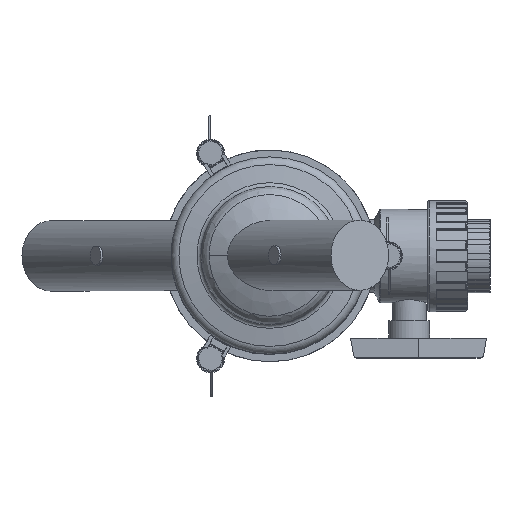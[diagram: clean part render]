
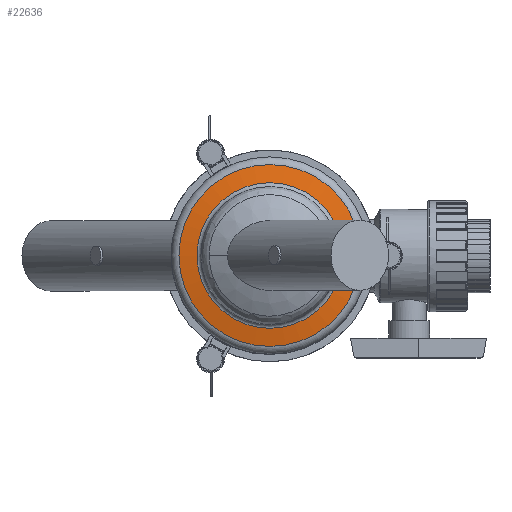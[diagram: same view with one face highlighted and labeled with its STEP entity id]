
A CAD part, top view. The second image highlights one B-rep face of the part: STEP entity #22636.
In plain terms, the highlighted conical face has half-angle 80 degrees and reference radius 78.413 mm.
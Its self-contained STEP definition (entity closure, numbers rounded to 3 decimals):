
#288 = CARTESIAN_POINT ( 'NONE',  ( -19.569, -34.383, 437.126 ) ) ;
#755 = AXIS2_PLACEMENT_3D ( 'NONE', #13370, #2751, #15147 ) ;
#1589 = ORIENTED_EDGE ( 'NONE', *, *, #2208, .F. ) ;
#2093 = CARTESIAN_POINT ( 'NONE',  ( 120.226, -34.383, 434.396 ) ) ;
#2168 = ORIENTED_EDGE ( 'NONE', *, *, #3555, .F. ) ;
#2208 = EDGE_CURVE ( 'NONE', #15349, #15349, #10120, .T. ) ;
#2397 = EDGE_LOOP ( 'NONE', ( #1589 ) ) ;
#2751 = DIRECTION ( 'NONE',  ( 0., 0., 1. ) ) ;
#3555 = EDGE_CURVE ( 'NONE', #5880, #5880, #20104, .T. ) ;
#5880 = VERTEX_POINT ( 'NONE', #2093 ) ;
#5972 = DIRECTION ( 'NONE',  ( 0., 0., -1. ) ) ;
#6265 = EDGE_LOOP ( 'NONE', ( #2168 ) ) ;
#7040 = AXIS2_PLACEMENT_3D ( 'NONE', #21391, #17883, #14283 ) ;
#8526 = AXIS2_PLACEMENT_3D ( 'NONE', #16643, #5972, #18427 ) ;
#10120 = CIRCLE ( 'NONE', #755, 62.155 ) ;
#12019 = CONICAL_SURFACE ( 'NONE', #7040, 78.413, 1.396 ) ;
#13370 = CARTESIAN_POINT ( 'NONE',  ( 42.586, -34.383, 437.126 ) ) ;
#14283 = DIRECTION ( 'NONE',  ( 0., 1., 0. ) ) ;
#15147 = DIRECTION ( 'NONE',  ( -1., 0., 0. ) ) ;
#15349 = VERTEX_POINT ( 'NONE', #288 ) ;
#16643 = CARTESIAN_POINT ( 'NONE',  ( 42.586, -34.383, 434.396 ) ) ;
#17323 = FACE_OUTER_BOUND ( 'NONE', #6265, .T. ) ;
#17883 = DIRECTION ( 'NONE',  ( 0., 0., -1. ) ) ;
#18427 = DIRECTION ( 'NONE',  ( 1., 0., 0. ) ) ;
#20104 = CIRCLE ( 'NONE', #8526, 77.639 ) ;
#21391 = CARTESIAN_POINT ( 'NONE',  ( 42.586, -34.383, 434.259 ) ) ;
#22057 = FACE_BOUND ( 'NONE', #2397, .T. ) ;
#22636 = ADVANCED_FACE ( 'NONE', ( #17323, #22057 ), #12019, .T. ) ;
